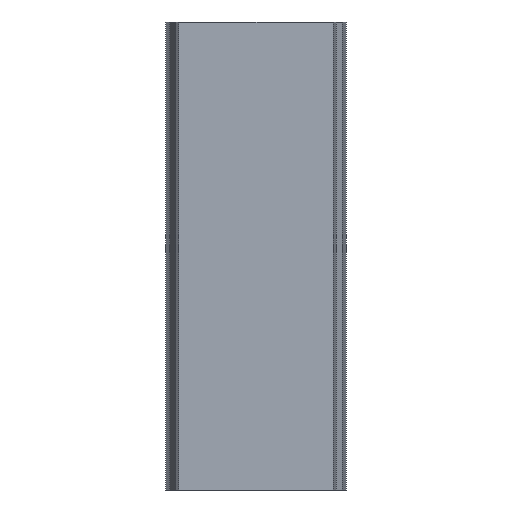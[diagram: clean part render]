
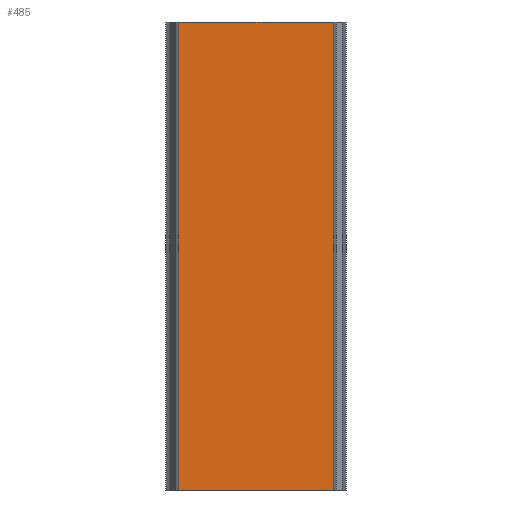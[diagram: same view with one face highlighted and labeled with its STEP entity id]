
A CAD part, front view. The second image highlights one B-rep face of the part: STEP entity #485.
In plain terms, the highlighted planar face has unit normal (0, -1, 0).
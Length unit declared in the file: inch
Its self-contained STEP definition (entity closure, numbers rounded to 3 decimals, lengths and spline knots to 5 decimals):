
#429=CARTESIAN_POINT('',(0.16535,0.,1.0));
#430=VERTEX_POINT('',#429);
#437=CARTESIAN_POINT('',(0.16535,0.,0.0));
#438=VERTEX_POINT('',#437);
#439=CARTESIAN_POINT('',(0.16535,0.,0.0));
#440=DIRECTION('',(0.0,0.0,1.0));
#441=VECTOR('',#440,1.0);
#442=LINE('',#439,#441);
#443=EDGE_CURVE('',#438,#430,#442,.T.);
#455=CARTESIAN_POINT('',(0.16535,0.,0.0));
#456=DIRECTION('',(0.0,-1.0,0.0));
#457=DIRECTION('',(0.0,0.0,-1.0));
#458=AXIS2_PLACEMENT_3D('',#455,#456,#457);
#459=PLANE('',#458);
#460=CARTESIAN_POINT('',(-0.16535,0.,1.0));
#461=VERTEX_POINT('',#460);
#462=CARTESIAN_POINT('',(0.16535,0.,1.0));
#463=DIRECTION('',(-1.0,0.0,0.0));
#464=VECTOR('',#463,0.33071);
#465=LINE('',#462,#464);
#466=EDGE_CURVE('',#430,#461,#465,.T.);
#467=ORIENTED_EDGE('',*,*,#466,.T.);
#468=CARTESIAN_POINT('',(-0.16535,0.,0.0));
#469=VERTEX_POINT('',#468);
#470=CARTESIAN_POINT('',(-0.16535,0.,0.0));
#471=DIRECTION('',(0.0,0.0,1.0));
#472=VECTOR('',#471,1.0);
#473=LINE('',#470,#472);
#474=EDGE_CURVE('',#469,#461,#473,.T.);
#475=ORIENTED_EDGE('',*,*,#474,.F.);
#476=CARTESIAN_POINT('',(0.16535,0.,0.0));
#477=DIRECTION('',(-1.0,0.0,0.0));
#478=VECTOR('',#477,0.33071);
#479=LINE('',#476,#478);
#480=EDGE_CURVE('',#438,#469,#479,.T.);
#481=ORIENTED_EDGE('',*,*,#480,.F.);
#482=ORIENTED_EDGE('',*,*,#443,.T.);
#483=EDGE_LOOP('',(#467,#475,#481,#482));
#484=FACE_OUTER_BOUND('',#483,.T.);
#485=ADVANCED_FACE('',(#484),#459,.T.);
